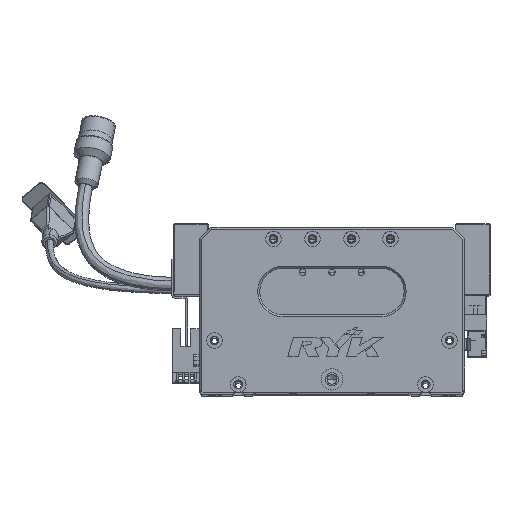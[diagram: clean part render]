
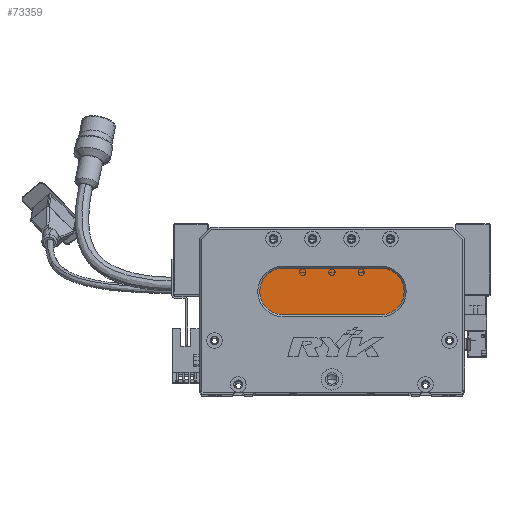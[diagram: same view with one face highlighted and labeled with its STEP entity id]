
A CAD part, top view. The second image highlights one B-rep face of the part: STEP entity #73359.
In plain terms, the highlighted planar face has unit normal (0, 0, 1) as drawn and (0, 0, -1) by its records, which use the part's own axes.
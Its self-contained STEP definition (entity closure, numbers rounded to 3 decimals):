
#2813 = LINE ( 'NONE', #29126, #17109 ) ;
#2941 = ORIENTED_EDGE ( 'NONE', *, *, #63332, .T. ) ;
#4226 = AXIS2_PLACEMENT_3D ( 'NONE', #12509, #18602, #49381 ) ;
#7987 = CARTESIAN_POINT ( 'NONE',  ( 93., 40., 13. ) ) ;
#10906 = CARTESIAN_POINT ( 'NONE',  ( 93., 52., 13. ) ) ;
#11107 = CARTESIAN_POINT ( 'NONE',  ( 93., 64., 13. ) ) ;
#11428 = VERTEX_POINT ( 'NONE', #7987 ) ;
#12509 = CARTESIAN_POINT ( 'NONE',  ( 93., 52., 13. ) ) ;
#13926 = CIRCLE ( 'NONE', #26675, 12. ) ;
#14491 = CARTESIAN_POINT ( 'NONE',  ( 43., 52., 13. ) ) ;
#15335 = DIRECTION ( 'NONE',  ( 0., 0., -1. ) ) ;
#17049 = PLANE ( 'NONE',  #64591 ) ;
#17109 = VECTOR ( 'NONE', #47419, 1000. ) ;
#18602 = DIRECTION ( 'NONE',  ( 0., 0., -1. ) ) ;
#19216 = ORIENTED_EDGE ( 'NONE', *, *, #60572, .T. ) ;
#19823 = CARTESIAN_POINT ( 'NONE',  ( 43., 64., 13. ) ) ;
#24136 = EDGE_LOOP ( 'NONE', ( #37344, #2941, #44954, #19216, #64604 ) ) ;
#25995 = EDGE_CURVE ( 'NONE', #33124, #64087, #2813, .T. ) ;
#26675 = AXIS2_PLACEMENT_3D ( 'NONE', #28036, #15335, #44205 ) ;
#27030 = FACE_OUTER_BOUND ( 'NONE', #24136, .T. ) ;
#28036 = CARTESIAN_POINT ( 'NONE',  ( 43., 52., 13. ) ) ;
#29126 = CARTESIAN_POINT ( 'NONE',  ( 93., 64., 13. ) ) ;
#30165 = CARTESIAN_POINT ( 'NONE',  ( 31., 52., 13. ) ) ;
#31996 = DIRECTION ( 'NONE',  ( -1., 0., 0. ) ) ;
#33124 = VERTEX_POINT ( 'NONE', #19823 ) ;
#37344 = ORIENTED_EDGE ( 'NONE', *, *, #59787, .T. ) ;
#37409 = VECTOR ( 'NONE', #31996, 1000. ) ;
#38621 = DIRECTION ( 'NONE',  ( 0., 0., -1. ) ) ;
#44195 = DIRECTION ( 'NONE',  ( -1., 0., 0. ) ) ;
#44205 = DIRECTION ( 'NONE',  ( -1., 0., 0. ) ) ;
#44954 = ORIENTED_EDGE ( 'NONE', *, *, #74197, .T. ) ;
#47419 = DIRECTION ( 'NONE',  ( 1., 0., 0. ) ) ;
#49381 = DIRECTION ( 'NONE',  ( -1., 0., 0. ) ) ;
#49743 = CIRCLE ( 'NONE', #72308, 12. ) ;
#53491 = LINE ( 'NONE', #68226, #37409 ) ;
#54813 = VERTEX_POINT ( 'NONE', #75646 ) ;
#59787 = EDGE_CURVE ( 'NONE', #64087, #11428, #76639, .T. ) ;
#60572 = EDGE_CURVE ( 'NONE', #72300, #33124, #13926, .T. ) ;
#63332 = EDGE_CURVE ( 'NONE', #11428, #54813, #53491, .T. ) ;
#64087 = VERTEX_POINT ( 'NONE', #11107 ) ;
#64591 = AXIS2_PLACEMENT_3D ( 'NONE', #10906, #78205, #65715 ) ;
#64604 = ORIENTED_EDGE ( 'NONE', *, *, #25995, .T. ) ;
#65715 = DIRECTION ( 'NONE',  ( -1., 0., 0. ) ) ;
#68226 = CARTESIAN_POINT ( 'NONE',  ( 93., 40., 13. ) ) ;
#72300 = VERTEX_POINT ( 'NONE', #30165 ) ;
#72308 = AXIS2_PLACEMENT_3D ( 'NONE', #14491, #38621, #44195 ) ;
#73359 = ADVANCED_FACE ( 'NONE', ( #27030 ), #17049, .T. ) ;
#74197 = EDGE_CURVE ( 'NONE', #54813, #72300, #49743, .T. ) ;
#75646 = CARTESIAN_POINT ( 'NONE',  ( 43., 40., 13. ) ) ;
#76639 = CIRCLE ( 'NONE', #4226, 12. ) ;
#78205 = DIRECTION ( 'NONE',  ( 0., 0., -1. ) ) ;
